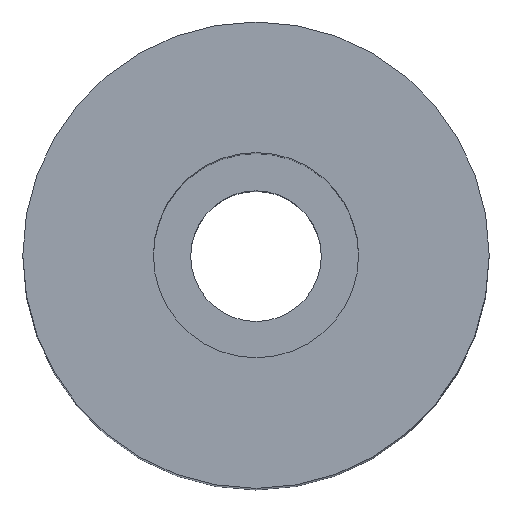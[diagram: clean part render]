
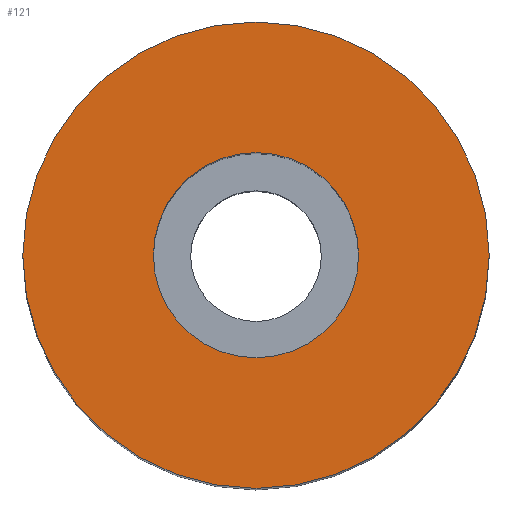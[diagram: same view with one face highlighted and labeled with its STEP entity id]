
A CAD part, top view. The second image highlights one B-rep face of the part: STEP entity #121.
In plain terms, the highlighted planar face has unit normal (0, 0, 1).
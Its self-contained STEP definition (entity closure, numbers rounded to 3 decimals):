
#121=ADVANCED_FACE('',(#133,#134),#130,.T.);
#130=PLANE('',#234);
#133=FACE_BOUND('',#139,.T.);
#134=FACE_BOUND('',#140,.T.);
#139=EDGE_LOOP('',(#151,#152));
#140=EDGE_LOOP('',(#153,#154));
#151=ORIENTED_EDGE('',*,*,#199,.T.);
#152=ORIENTED_EDGE('',*,*,#200,.T.);
#153=ORIENTED_EDGE('',*,*,#201,.F.);
#154=ORIENTED_EDGE('',*,*,#202,.F.);
#187=VERTEX_POINT('',#303);
#188=VERTEX_POINT('',#304);
#189=VERTEX_POINT('',#307);
#190=VERTEX_POINT('',#308);
#199=EDGE_CURVE('',#187,#188,#217,.T.);
#200=EDGE_CURVE('',#188,#187,#218,.T.);
#201=EDGE_CURVE('',#189,#190,#219,.T.);
#202=EDGE_CURVE('',#190,#189,#220,.T.);
#217=CIRCLE('',#230,12.5);
#218=CIRCLE('',#231,12.5);
#219=CIRCLE('',#232,5.5);
#220=CIRCLE('',#233,5.5);
#230=AXIS2_PLACEMENT_3D('',#302,#253,#254);
#231=AXIS2_PLACEMENT_3D('',#305,#255,#256);
#232=AXIS2_PLACEMENT_3D('',#306,#257,#258);
#233=AXIS2_PLACEMENT_3D('',#309,#259,#260);
#234=AXIS2_PLACEMENT_3D('',#310,#261,#262);
#253=DIRECTION('',(0.,0.,1.));
#254=DIRECTION('',(0.,1.,0.));
#255=DIRECTION('',(0.,0.,1.));
#256=DIRECTION('',(0.,-1.,0.));
#257=DIRECTION('',(0.,0.,1.));
#258=DIRECTION('',(0.,-1.,0.));
#259=DIRECTION('',(0.,0.,1.));
#260=DIRECTION('',(0.,1.,0.));
#261=DIRECTION('',(0.,0.,1.));
#262=DIRECTION('',(0.,1.,0.));
#302=CARTESIAN_POINT('',(0.,0.,50.));
#303=CARTESIAN_POINT('',(-12.5,0.,50.));
#304=CARTESIAN_POINT('',(12.5,0.,50.));
#305=CARTESIAN_POINT('',(0.,0.,50.));
#306=CARTESIAN_POINT('',(0.,0.,50.));
#307=CARTESIAN_POINT('',(5.5,0.,50.));
#308=CARTESIAN_POINT('',(-5.5,0.,50.));
#309=CARTESIAN_POINT('',(0.,0.,50.));
#310=CARTESIAN_POINT('',(0.,0.,50.));
